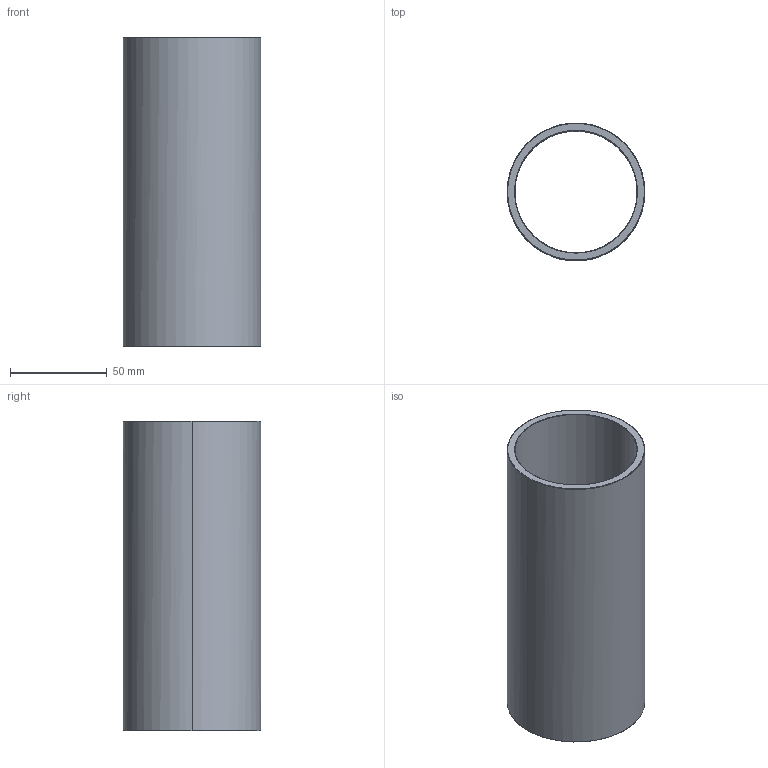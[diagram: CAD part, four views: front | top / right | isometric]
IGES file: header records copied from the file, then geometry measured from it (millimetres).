
Start section: Write IGES format                                    datakit 2008 (c)
Global section: file name: Unknown; native system: DATAKIT Converter; preprocessor: Unknown; author: Unknown; organization: Unknown; date: 950613.180003; units: millimetre
Bounding box: 71 x 70.89 x 160 mm (x, y, z)
Surface area: 68941 mm2 (no closed solid volume)
Topology: 0 solids, 0 shells, 14 faces, 56 edges, 56 vertices
Faces by surface type: revolution 12, bspline 2
